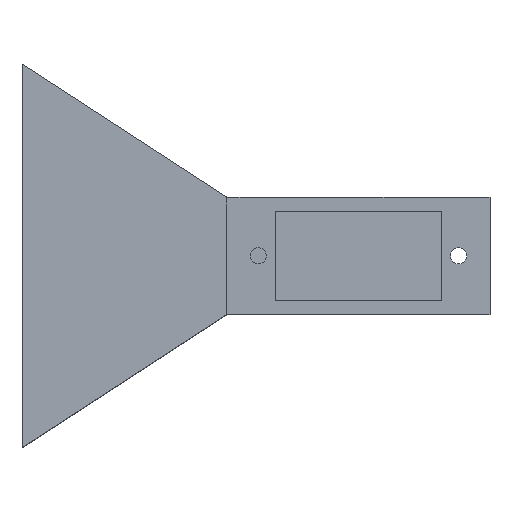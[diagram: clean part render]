
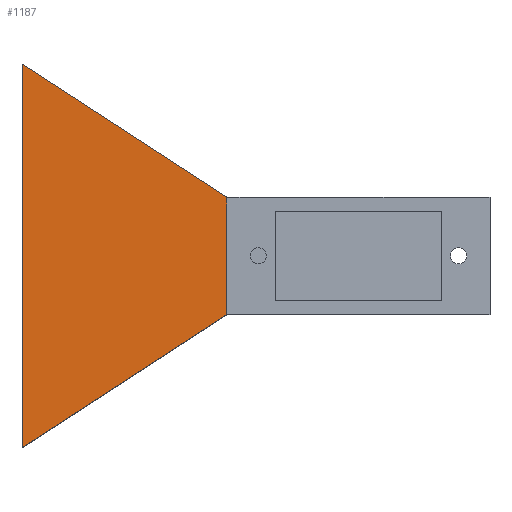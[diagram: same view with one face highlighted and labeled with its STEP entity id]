
A CAD part, top view. The second image highlights one B-rep face of the part: STEP entity #1187.
In plain terms, the highlighted planar face has unit normal (0, 0, 1).
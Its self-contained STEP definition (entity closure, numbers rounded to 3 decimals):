
#91=FACE_OUTER_BOUND('',#163,.T.);
#163=EDGE_LOOP('',(#1014,#1015,#1016,#1017));
#292=LINE('',#1821,#447);
#301=LINE('',#1839,#456);
#312=LINE('',#1860,#467);
#313=LINE('',#1861,#468);
#447=VECTOR('',#1490,10.);
#456=VECTOR('',#1503,10.);
#467=VECTOR('',#1516,10.);
#468=VECTOR('',#1517,10.);
#568=VERTEX_POINT('',#1819);
#569=VERTEX_POINT('',#1820);
#576=VERTEX_POINT('',#1838);
#585=VERTEX_POINT('',#1859);
#714=EDGE_CURVE('',#568,#569,#292,.T.);
#723=EDGE_CURVE('',#568,#576,#301,.T.);
#734=EDGE_CURVE('',#569,#585,#312,.T.);
#735=EDGE_CURVE('',#585,#576,#313,.T.);
#1014=ORIENTED_EDGE('',*,*,#714,.T.);
#1015=ORIENTED_EDGE('',*,*,#734,.T.);
#1016=ORIENTED_EDGE('',*,*,#735,.T.);
#1017=ORIENTED_EDGE('',*,*,#723,.F.);
#1130=PLANE('',#1267);
#1187=ADVANCED_FACE('',(#91),#1130,.T.);
#1267=AXIS2_PLACEMENT_3D('',#1858,#1514,#1515);
#1490=DIRECTION('',(-0.839,0.544,0.));
#1503=DIRECTION('',(0.,-1.,0.));
#1514=DIRECTION('center_axis',(0.,0.,1.));
#1515=DIRECTION('ref_axis',(1.,0.,0.));
#1516=DIRECTION('',(0.,-1.,0.));
#1517=DIRECTION('',(0.839,0.544,0.));
#1819=CARTESIAN_POINT('',(-18.,8.05,22.8));
#1820=CARTESIAN_POINT('',(-46.,26.213,22.8));
#1821=CARTESIAN_POINT('',(-16.69,7.2,22.8));
#1838=CARTESIAN_POINT('',(-18.,-8.05,22.8));
#1839=CARTESIAN_POINT('',(-18.,-8.05,22.8));
#1858=CARTESIAN_POINT('Origin',(-19.5,0.,22.8));
#1859=CARTESIAN_POINT('',(-46.,-26.213,22.8));
#1860=CARTESIAN_POINT('',(-46.,-8.05,22.8));
#1861=CARTESIAN_POINT('',(-16.69,-7.2,22.8));
